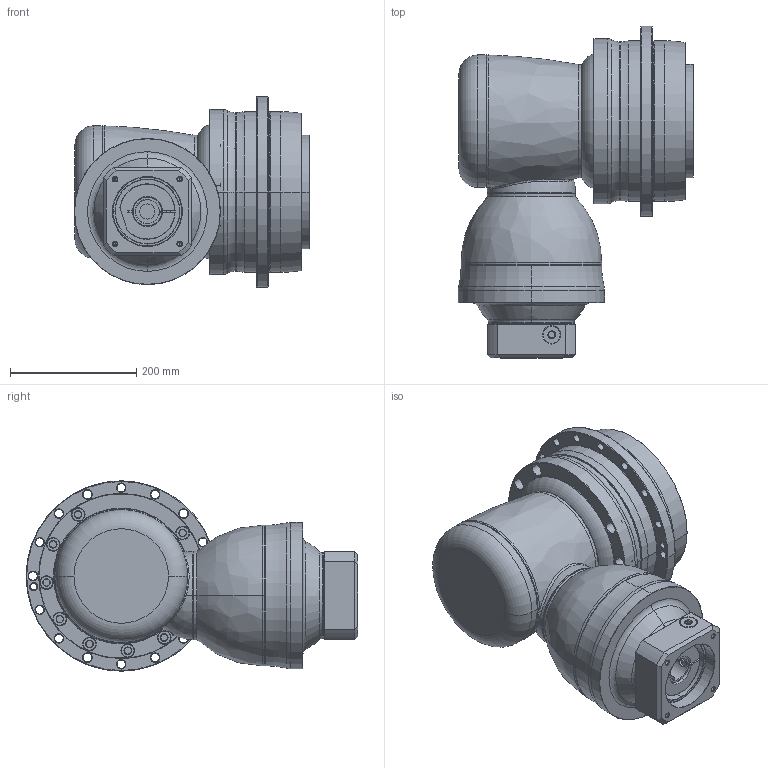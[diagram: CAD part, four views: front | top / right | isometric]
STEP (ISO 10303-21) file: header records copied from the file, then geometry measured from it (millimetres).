
FILE_DESCRIPTION((''),'2;1');
FILE_NAME('AHKB255_3ST_38-P0409900101_ASM','2016-11-30T',('d01943'),(''),'PRO/ENGINEER BY PARAMETRIC TECHNOLOGY CORPORATION, 2008410','PRO/ENGINEER BY PARAMETRIC TECHNOLOGY CORPORATION, 2008410','');
FILE_SCHEMA(('CONFIG_CONTROL_DESIGN'));
Length unit declared in the file: millimetre
Products named in the file (12): P1008600002; P1802700001; P0278700003; P0359700003; P1315600001; P1007600001; P1317600401; P0409900101; P0503900012; P0912504001; 21711422019; AHKB255_3ST_38-P0409900101_ASM
Assembly tree (11 placements, depth 2):
  AHKB255_3ST_38-P0409900101_ASM
    P1008600002
    P1802700001
    P0278700003
    P0359700003
    P1315600001
    P1007600001
    P1317600401
    P0409900101
    P0503900012
    P0912504001
    21711422019
Bounding box: 373.5 x 526.5 x 302 mm (x, y, z)
Volume: 16773910.7 mm3; surface area: 1358368.6 mm2
Topology: 12 solids, 12 shells, 1004 faces, 2289 edges, 1322 vertices
Faces by surface type: cylinder 368, cone 336, plane 137, torus 124, bspline 37, sphere 2
Entity records: 34609 total; most frequent: CARTESIAN_POINT 11484, DIRECTION 5324, ORIENTED_EDGE 4422, AXIS2_PLACEMENT_3D 2274, EDGE_CURVE 2211, VERTEX_POINT 1322, CIRCLE 1284, EDGE_LOOP 1185
